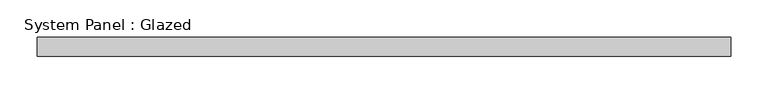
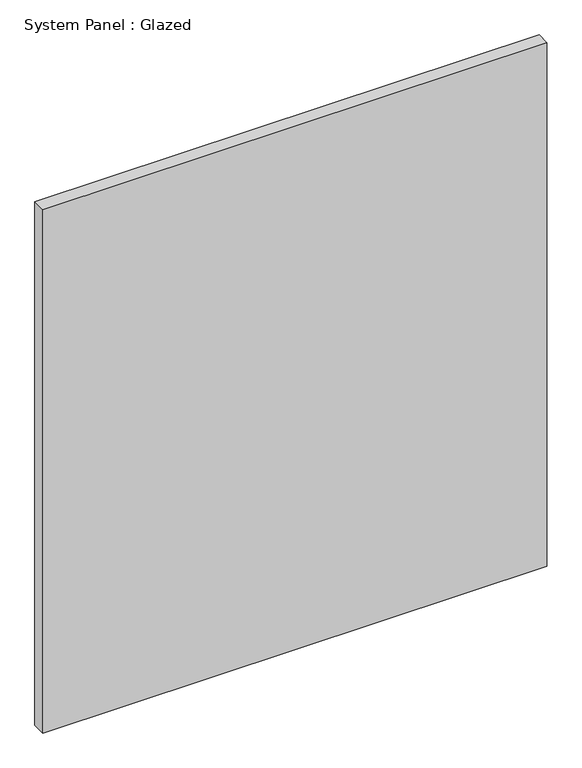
"""IFC4 building model written with IfcOpenShell, lengths in millimetres: plate geometry, System Panel : Glazed."""

from ifc_helpers import new_model, si_unit, origin, origin_with_axes, place, context, project, spatial, polyline, outline, extrude, source, transform, mapped, element, save


def system_panel_glazed_5611fd39(model_context):
    return source(origin(), model_context, "Body", "SweptSolid", [
        extrude(outline(polyline([(462.5, 24.5), (-462.5, 24.5), (-462.5, 49.5), (462.5, 49.5), (462.5, 24.5)])), origin_with_axes(), (0.0, 0.0, 1.0), 1015.4395036),
    ])


if __name__ == "__main__":
    model = new_model("IFC4")
    model_context = context("Model", 3, world=origin())
    ifc_project = project(units=[si_unit("LENGTHUNIT", "METRE", prefix="MILLI")], contexts=[model_context])
    site = spatial("IfcSite", under=ifc_project)
    building = spatial("IfcBuilding", under=site)
    placement = place(None, origin())
    system_panel_glazed_shape = system_panel_glazed_5611fd39(model_context)
    element("IfcPlate", 1, ObjectType="System Panel : Glazed", at=placement, inside=building, context=model_context, shape_type="MappedRepresentation", body=[
        mapped(system_panel_glazed_shape, transform((0.0, 0.0, 0.0), x_axis=(1.0, 0.0, 0.0), y_axis=(0.0, 1.0, 0.0), z_axis=(0.0, 0.0, 1.0))),
    ])
    save(model, "model.ifc")
